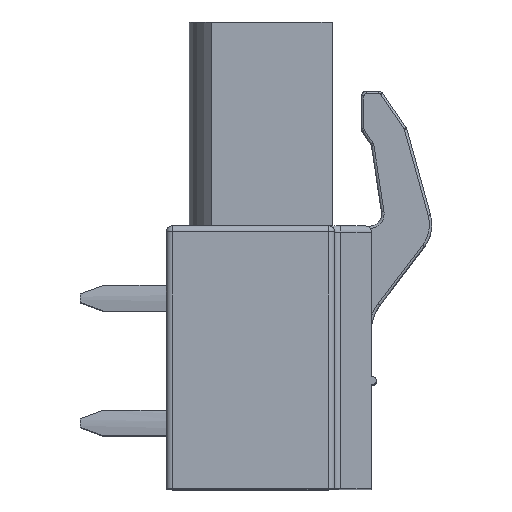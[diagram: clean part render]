
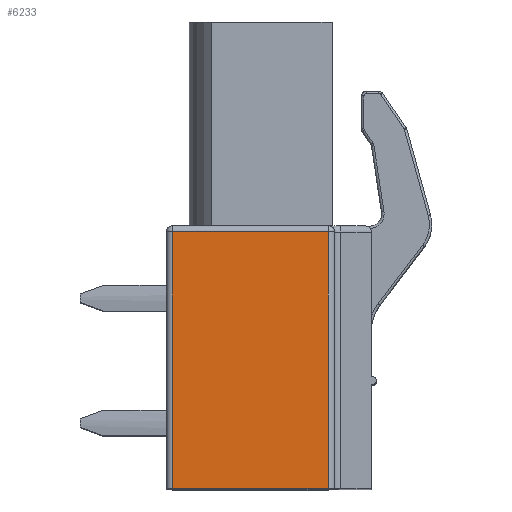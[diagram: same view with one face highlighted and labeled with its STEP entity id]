
A CAD part, top view. The second image highlights one B-rep face of the part: STEP entity #6233.
In plain terms, the highlighted planar face has unit normal (0, 0, 1).
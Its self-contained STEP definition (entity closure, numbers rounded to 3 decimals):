
#1=DIRECTION('',(-1.,0.,0.));
#2=VECTOR('',#1,6.35);
#3=CARTESIAN_POINT('',(10.1,0.,-0.073));
#4=LINE('',#3,#2);
#9=DIRECTION('',(0.,-1.,0.));
#10=VECTOR('',#9,10.45);
#11=CARTESIAN_POINT('',(3.75,10.45,-0.073));
#12=LINE('',#11,#10);
#2582=DIRECTION('',(-1.,0.,0.));
#2583=VECTOR('',#2582,6.35);
#2584=CARTESIAN_POINT('',(10.1,10.45,-0.073));
#2585=LINE('',#2584,#2583);
#3271=DIRECTION('',(0.,1.,0.));
#3272=VECTOR('',#3271,10.45);
#3273=CARTESIAN_POINT('',(10.1,0.,-0.073));
#3274=LINE('',#3273,#3272);
#4850=CARTESIAN_POINT('',(3.75,10.45,-0.073));
#4851=CARTESIAN_POINT('',(3.75,0.,-0.073));
#4852=VERTEX_POINT('',#4850);
#4853=VERTEX_POINT('',#4851);
#4854=CARTESIAN_POINT('',(10.1,10.45,-0.073));
#4855=VERTEX_POINT('',#4854);
#4856=CARTESIAN_POINT('',(10.1,0.,-0.073));
#4857=VERTEX_POINT('',#4856);
#6218=CARTESIAN_POINT('',(7.675,9.5,-0.073));
#6219=DIRECTION('',(0.,0.,1.));
#6220=DIRECTION('',(1.,0.,0.));
#6221=AXIS2_PLACEMENT_3D('',#6218,#6219,#6220);
#6222=PLANE('',#6221);
#6224=ORIENTED_EDGE('',*,*,#6223,.F.);
#6226=ORIENTED_EDGE('',*,*,#6225,.F.);
#6228=ORIENTED_EDGE('',*,*,#6227,.F.);
#6230=ORIENTED_EDGE('',*,*,#6229,.T.);
#6231=EDGE_LOOP('',(#6224,#6226,#6228,#6230));
#6232=FACE_OUTER_BOUND('',#6231,.F.);
#6233=ADVANCED_FACE('',(#6232),#6222,.T.);
#6223=EDGE_CURVE('',#4852,#4853,#12,.T.);
#6225=EDGE_CURVE('',#4855,#4852,#2585,.T.);
#6227=EDGE_CURVE('',#4857,#4855,#3274,.T.);
#6229=EDGE_CURVE('',#4857,#4853,#4,.T.);
